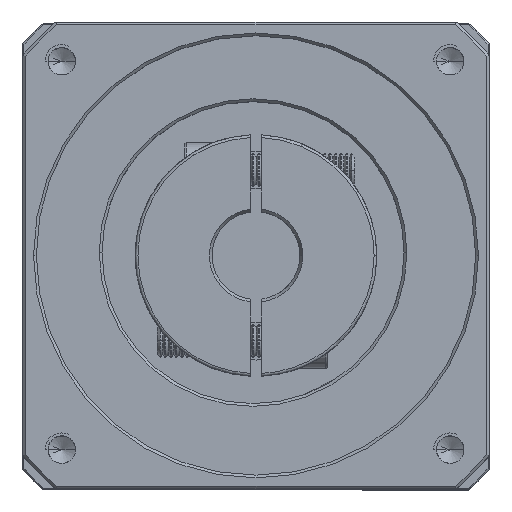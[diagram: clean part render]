
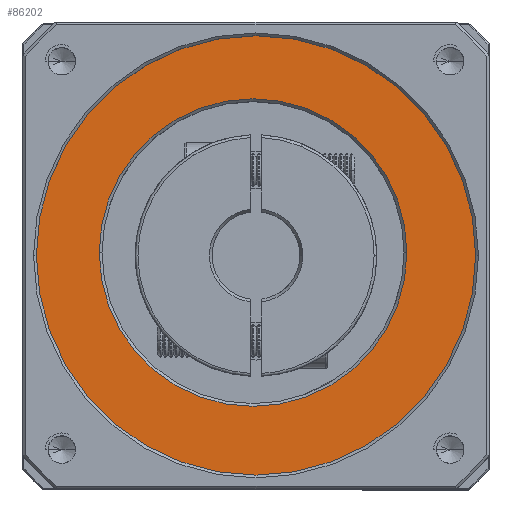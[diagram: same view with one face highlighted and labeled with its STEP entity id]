
A CAD part, top view. The second image highlights one B-rep face of the part: STEP entity #86202.
In plain terms, the highlighted planar face has unit normal (0, 0, 1).
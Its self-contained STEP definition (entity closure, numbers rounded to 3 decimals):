
#1265 = AXIS2_PLACEMENT_3D ( 'NONE', #108435, #56878, #4361 ) ;
#1413 = DIRECTION ( 'NONE',  ( 0., 0., -1. ) ) ;
#4361 = DIRECTION ( 'NONE',  ( 1., 0., 0. ) ) ;
#12599 = DIRECTION ( 'NONE',  ( 0., 0., 1. ) ) ;
#13043 = EDGE_CURVE ( 'NONE', #100616, #110930, #88620, .T. ) ;
#15158 = CIRCLE ( 'NONE', #51319, 28. ) ;
#19969 = CARTESIAN_POINT ( 'NONE',  ( -128.694, 29.168, 30.066 ) ) ;
#27117 = EDGE_CURVE ( 'NONE', #110930, #100616, #89189, .T. ) ;
#29843 = PLANE ( 'NONE',  #82598 ) ;
#37897 = CARTESIAN_POINT ( 'NONE',  ( -140.153, 28.633, 30.066 ) ) ;
#43471 = VERTEX_POINT ( 'NONE', #19969 ) ;
#44316 = CIRCLE ( 'NONE', #45692, 28. ) ;
#44750 = EDGE_CURVE ( 'NONE', #43471, #108327, #44316, .T. ) ;
#45181 = CARTESIAN_POINT ( 'NONE',  ( -100.153, 28.633, 30.066 ) ) ;
#45692 = AXIS2_PLACEMENT_3D ( 'NONE', #53952, #1413, #62772 ) ;
#51319 = AXIS2_PLACEMENT_3D ( 'NONE', #52063, #112323, #60837 ) ;
#52063 = CARTESIAN_POINT ( 'NONE',  ( -100.694, 29.168, 30.066 ) ) ;
#53952 = CARTESIAN_POINT ( 'NONE',  ( -100.694, 29.168, 30.066 ) ) ;
#54013 = DIRECTION ( 'NONE',  ( 1., 0., 0. ) ) ;
#56878 = DIRECTION ( 'NONE',  ( 0., 0., 1. ) ) ;
#60837 = DIRECTION ( 'NONE',  ( 1., 0., 0. ) ) ;
#62772 = DIRECTION ( 'NONE',  ( 1., 0., 0. ) ) ;
#65132 = CARTESIAN_POINT ( 'NONE',  ( -100.153, 28.633, 30.066 ) ) ;
#73926 = DIRECTION ( 'NONE',  ( 1., 0., 0. ) ) ;
#74397 = AXIS2_PLACEMENT_3D ( 'NONE', #45181, #105647, #54013 ) ;
#77410 = ORIENTED_EDGE ( 'NONE', *, *, #27117, .T. ) ;
#81792 = EDGE_LOOP ( 'NONE', ( #77410, #85288 ) ) ;
#82598 = AXIS2_PLACEMENT_3D ( 'NONE', #65132, #12599, #73926 ) ;
#85288 = ORIENTED_EDGE ( 'NONE', *, *, #13043, .T. ) ;
#85561 = EDGE_LOOP ( 'NONE', ( #89684, #94394 ) ) ;
#86202 = ADVANCED_FACE ( 'NONE', ( #111674, #88908 ), #29843, .T. ) ;
#86446 = EDGE_CURVE ( 'NONE', #108327, #43471, #15158, .T. ) ;
#88620 = CIRCLE ( 'NONE', #74397, 40. ) ;
#88908 = FACE_BOUND ( 'NONE', #85561, .T. ) ;
#89189 = CIRCLE ( 'NONE', #1265, 40. ) ;
#89684 = ORIENTED_EDGE ( 'NONE', *, *, #86446, .T. ) ;
#94394 = ORIENTED_EDGE ( 'NONE', *, *, #44750, .T. ) ;
#100616 = VERTEX_POINT ( 'NONE', #37897 ) ;
#101852 = CARTESIAN_POINT ( 'NONE',  ( -60.153, 28.633, 30.066 ) ) ;
#102598 = CARTESIAN_POINT ( 'NONE',  ( -72.694, 29.168, 30.066 ) ) ;
#105647 = DIRECTION ( 'NONE',  ( 0., 0., 1. ) ) ;
#108327 = VERTEX_POINT ( 'NONE', #102598 ) ;
#108435 = CARTESIAN_POINT ( 'NONE',  ( -100.153, 28.633, 30.066 ) ) ;
#110930 = VERTEX_POINT ( 'NONE', #101852 ) ;
#111674 = FACE_OUTER_BOUND ( 'NONE', #81792, .T. ) ;
#112323 = DIRECTION ( 'NONE',  ( 0., 0., -1. ) ) ;
